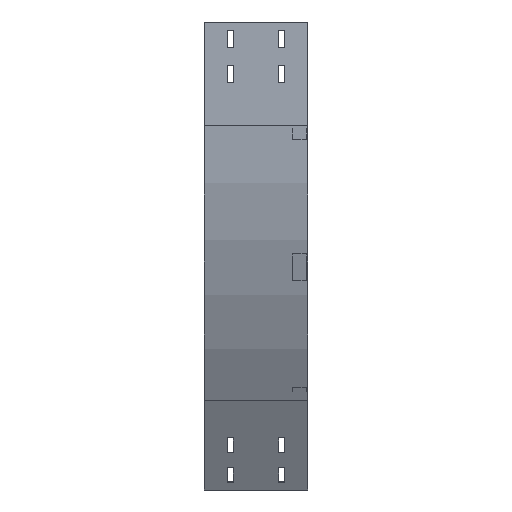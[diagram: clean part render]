
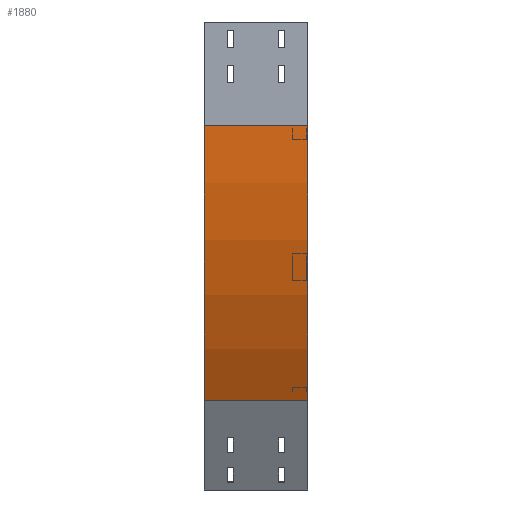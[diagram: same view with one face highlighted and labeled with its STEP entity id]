
A CAD part, left-side view. The second image highlights one B-rep face of the part: STEP entity #1880.
In plain terms, the highlighted cylindrical face has radius 800 mm (diameter 1600 mm), a partial arc.
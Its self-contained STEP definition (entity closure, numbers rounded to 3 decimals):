
#374 = EDGE_CURVE ( 'NONE', #3215, #1804, #1354, .T. ) ;
#440 = CARTESIAN_POINT ( 'NONE',  ( 107.18, 0., -550. ) ) ;
#550 = ORIENTED_EDGE ( 'NONE', *, *, #2207, .F. ) ;
#667 = EDGE_CURVE ( 'NONE', #3629, #3215, #2084, .T. ) ;
#697 = ORIENTED_EDGE ( 'NONE', *, *, #374, .T. ) ;
#759 = ORIENTED_EDGE ( 'NONE', *, *, #667, .T. ) ;
#908 = DIRECTION ( 'NONE',  ( 0., -1., 0. ) ) ;
#1113 = DIRECTION ( 'NONE',  ( -1., 0., 0. ) ) ;
#1140 = DIRECTION ( 'NONE',  ( 0., -1., 0. ) ) ;
#1149 = CIRCLE ( 'NONE', #3589, 800. ) ;
#1354 = LINE ( 'NONE', #440, #3205 ) ;
#1444 = VECTOR ( 'NONE', #3175, 1000. ) ;
#1497 = VERTEX_POINT ( 'NONE', #3669 ) ;
#1629 = DIRECTION ( 'NONE',  ( 0., -1., 0. ) ) ;
#1804 = VERTEX_POINT ( 'NONE', #2625 ) ;
#1812 = CARTESIAN_POINT ( 'NONE',  ( 800., 150., -150. ) ) ;
#1880 = ADVANCED_FACE ( 'NONE', ( #2643 ), #3841, .T. ) ;
#1963 = CARTESIAN_POINT ( 'NONE',  ( 800., 0., -150. ) ) ;
#1975 = LINE ( 'NONE', #3510, #1444 ) ;
#1981 = DIRECTION ( 'NONE',  ( 0., -1., 0. ) ) ;
#2084 = CIRCLE ( 'NONE', #2590, 800. ) ;
#2207 = EDGE_CURVE ( 'NONE', #1497, #1804, #1149, .T. ) ;
#2590 = AXIS2_PLACEMENT_3D ( 'NONE', #1812, #908, #2784 ) ;
#2625 = CARTESIAN_POINT ( 'NONE',  ( 107.18, 0., -550. ) ) ;
#2626 = EDGE_CURVE ( 'NONE', #3629, #1497, #1975, .T. ) ;
#2643 = FACE_OUTER_BOUND ( 'NONE', #3797, .T. ) ;
#2784 = DIRECTION ( 'NONE',  ( -1., 0., 0. ) ) ;
#2823 = AXIS2_PLACEMENT_3D ( 'NONE', #3822, #1140, #3242 ) ;
#3175 = DIRECTION ( 'NONE',  ( 0., -1., 0. ) ) ;
#3205 = VECTOR ( 'NONE', #1629, 1000. ) ;
#3215 = VERTEX_POINT ( 'NONE', #3647 ) ;
#3242 = DIRECTION ( 'NONE',  ( 0., 0., -1. ) ) ;
#3510 = CARTESIAN_POINT ( 'NONE',  ( 0., 0., -150. ) ) ;
#3589 = AXIS2_PLACEMENT_3D ( 'NONE', #1963, #1981, #1113 ) ;
#3623 = CARTESIAN_POINT ( 'NONE',  ( 0., 150., -150. ) ) ;
#3629 = VERTEX_POINT ( 'NONE', #3623 ) ;
#3647 = CARTESIAN_POINT ( 'NONE',  ( 107.18, 150., -550. ) ) ;
#3669 = CARTESIAN_POINT ( 'NONE',  ( 0., 0., -150. ) ) ;
#3797 = EDGE_LOOP ( 'NONE', ( #550, #3823, #759, #697 ) ) ;
#3822 = CARTESIAN_POINT ( 'NONE',  ( 800., 0., -150. ) ) ;
#3823 = ORIENTED_EDGE ( 'NONE', *, *, #2626, .F. ) ;
#3841 = CYLINDRICAL_SURFACE ( 'NONE', #2823, 800. ) ;
